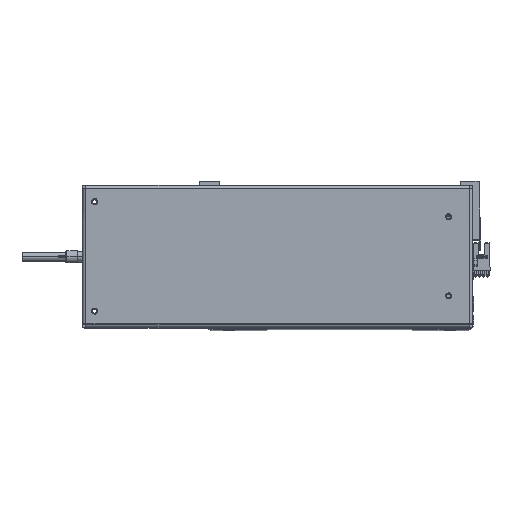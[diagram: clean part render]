
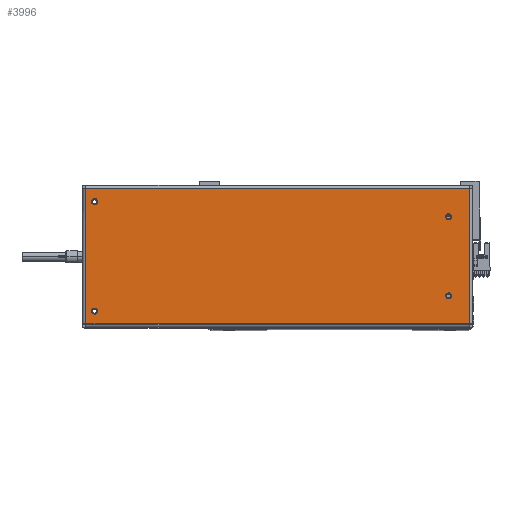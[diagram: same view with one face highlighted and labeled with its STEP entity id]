
A CAD part, top view. The second image highlights one B-rep face of the part: STEP entity #3996.
In plain terms, the highlighted planar face has unit normal (0, 0, 1).
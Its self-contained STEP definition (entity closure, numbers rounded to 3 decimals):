
#616 = CIRCLE ( 'NONE', #28214, 2.5 ) ;
#704 = EDGE_LOOP ( 'NONE', ( #2005, #8262 ) ) ;
#862 = DIRECTION ( 'NONE',  ( 0., 0., 1. ) ) ;
#1237 = DIRECTION ( 'NONE',  ( 1., 0., 0. ) ) ;
#2005 = ORIENTED_EDGE ( 'NONE', *, *, #13672, .F. ) ;
#2350 = VERTEX_POINT ( 'NONE', #8721 ) ;
#3062 = DIRECTION ( 'NONE',  ( 1., 0., 0. ) ) ;
#3361 = LINE ( 'NONE', #36124, #34867 ) ;
#3455 = DIRECTION ( 'NONE',  ( 0., 0., 1. ) ) ;
#3932 = DIRECTION ( 'NONE',  ( 0., 0., 1. ) ) ;
#3996 = ADVANCED_FACE ( 'NONE', ( #18841, #9554, #19281, #16048, #12826 ), #8010, .F. ) ;
#4498 = LINE ( 'NONE', #22472, #32773 ) ;
#4529 = CARTESIAN_POINT ( 'NONE',  ( 157.7, 58.5, 0. ) ) ;
#4784 = CARTESIAN_POINT ( 'NONE',  ( 153., 45., 0. ) ) ;
#5828 = CARTESIAN_POINT ( 'NONE',  ( 150.5, -45., 0. ) ) ;
#5901 = CARTESIAN_POINT ( 'NONE',  ( -143., -32.5, 0. ) ) ;
#6555 = DIRECTION ( 'NONE',  ( 1., 0., 0. ) ) ;
#6827 = EDGE_LOOP ( 'NONE', ( #19614, #27657 ) ) ;
#6978 = DIRECTION ( 'NONE',  ( 1., 0., 0. ) ) ;
#7643 = VERTEX_POINT ( 'NONE', #30121 ) ;
#8010 = PLANE ( 'NONE',  #38411 ) ;
#8262 = ORIENTED_EDGE ( 'NONE', *, *, #31383, .F. ) ;
#8721 = CARTESIAN_POINT ( 'NONE',  ( 148., -45., 0. ) ) ;
#8974 = DIRECTION ( 'NONE',  ( 0., 0., 1. ) ) ;
#9554 = FACE_BOUND ( 'NONE', #6827, .T. ) ;
#9863 = VERTEX_POINT ( 'NONE', #33495 ) ;
#10288 = VERTEX_POINT ( 'NONE', #4784 ) ;
#10576 = EDGE_CURVE ( 'NONE', #30751, #16350, #3361, .T. ) ;
#10604 = AXIS2_PLACEMENT_3D ( 'NONE', #12849, #33535, #6978 ) ;
#10617 = CARTESIAN_POINT ( 'NONE',  ( -140.5, -32.5, 0. ) ) ;
#11535 = ORIENTED_EDGE ( 'NONE', *, *, #10576, .T. ) ;
#12533 = CARTESIAN_POINT ( 'NONE',  ( -140.5, -32.5, 0. ) ) ;
#12826 = FACE_OUTER_BOUND ( 'NONE', #17191, .T. ) ;
#12849 = CARTESIAN_POINT ( 'NONE',  ( 150.5, 45., 0. ) ) ;
#13128 = ORIENTED_EDGE ( 'NONE', *, *, #19734, .T. ) ;
#13204 = VECTOR ( 'NONE', #15570, 1000. ) ;
#13263 = CARTESIAN_POINT ( 'NONE',  ( -140.5, 32.5, 0. ) ) ;
#13672 = EDGE_CURVE ( 'NONE', #25510, #20986, #616, .T. ) ;
#13995 = ORIENTED_EDGE ( 'NONE', *, *, #24311, .T. ) ;
#14254 = EDGE_CURVE ( 'NONE', #29523, #22775, #14515, .T. ) ;
#14515 = CIRCLE ( 'NONE', #35206, 2.5 ) ;
#14904 = AXIS2_PLACEMENT_3D ( 'NONE', #20888, #8974, #35798 ) ;
#15347 = CARTESIAN_POINT ( 'NONE',  ( 150.5, 45., 0. ) ) ;
#15570 = DIRECTION ( 'NONE',  ( -1., 0., 0. ) ) ;
#15941 = CARTESIAN_POINT ( 'NONE',  ( 157.6, 55.6, 0. ) ) ;
#16048 = FACE_BOUND ( 'NONE', #36794, .T. ) ;
#16350 = VERTEX_POINT ( 'NONE', #25172 ) ;
#16604 = CARTESIAN_POINT ( 'NONE',  ( -157.6, 55.6, 0. ) ) ;
#16612 = EDGE_CURVE ( 'NONE', #22775, #29523, #18638, .T. ) ;
#16742 = DIRECTION ( 'NONE',  ( 1., 0., 0. ) ) ;
#17055 = CIRCLE ( 'NONE', #36845, 2.5 ) ;
#17191 = EDGE_LOOP ( 'NONE', ( #24188, #11535, #13128, #13995 ) ) ;
#17403 = LINE ( 'NONE', #21125, #13204 ) ;
#18231 = AXIS2_PLACEMENT_3D ( 'NONE', #28350, #25396, #16742 ) ;
#18638 = CIRCLE ( 'NONE', #14904, 2.5 ) ;
#18841 = FACE_BOUND ( 'NONE', #704, .T. ) ;
#19281 = FACE_BOUND ( 'NONE', #30020, .T. ) ;
#19614 = ORIENTED_EDGE ( 'NONE', *, *, #16612, .F. ) ;
#19734 = EDGE_CURVE ( 'NONE', #16350, #22040, #20511, .T. ) ;
#20511 = LINE ( 'NONE', #22199, #35369 ) ;
#20888 = CARTESIAN_POINT ( 'NONE',  ( -140.5, 32.5, 0. ) ) ;
#20986 = VERTEX_POINT ( 'NONE', #5901 ) ;
#21044 = CIRCLE ( 'NONE', #31431, 2.5 ) ;
#21113 = DIRECTION ( 'NONE',  ( 0., 0., 1. ) ) ;
#21125 = CARTESIAN_POINT ( 'NONE',  ( 157.7, 55.6, 0. ) ) ;
#21971 = ORIENTED_EDGE ( 'NONE', *, *, #28556, .F. ) ;
#22026 = EDGE_CURVE ( 'NONE', #9863, #10288, #38251, .T. ) ;
#22040 = VERTEX_POINT ( 'NONE', #15941 ) ;
#22199 = CARTESIAN_POINT ( 'NONE',  ( 157.6, -55.6, 0. ) ) ;
#22459 = VERTEX_POINT ( 'NONE', #16604 ) ;
#22472 = CARTESIAN_POINT ( 'NONE',  ( -157.6, 55.6, 0. ) ) ;
#22586 = CARTESIAN_POINT ( 'NONE',  ( -157.6, -55.6, 0. ) ) ;
#22775 = VERTEX_POINT ( 'NONE', #29339 ) ;
#23327 = EDGE_CURVE ( 'NONE', #7643, #2350, #28037, .T. ) ;
#24027 = AXIS2_PLACEMENT_3D ( 'NONE', #5828, #21113, #33004 ) ;
#24188 = ORIENTED_EDGE ( 'NONE', *, *, #28952, .T. ) ;
#24311 = EDGE_CURVE ( 'NONE', #22040, #22459, #17403, .T. ) ;
#24459 = CIRCLE ( 'NONE', #18231, 2.5 ) ;
#25163 = DIRECTION ( 'NONE',  ( 1., 0., 0. ) ) ;
#25172 = CARTESIAN_POINT ( 'NONE',  ( 157.6, -55.6, 0. ) ) ;
#25252 = DIRECTION ( 'NONE',  ( 0., 0., -1. ) ) ;
#25396 = DIRECTION ( 'NONE',  ( 0., 0., 1. ) ) ;
#25510 = VERTEX_POINT ( 'NONE', #36310 ) ;
#25686 = DIRECTION ( 'NONE',  ( 0., -1., 0. ) ) ;
#26499 = ORIENTED_EDGE ( 'NONE', *, *, #37828, .F. ) ;
#27657 = ORIENTED_EDGE ( 'NONE', *, *, #14254, .F. ) ;
#27730 = DIRECTION ( 'NONE',  ( 0., 1., 0. ) ) ;
#28037 = CIRCLE ( 'NONE', #24027, 2.5 ) ;
#28214 = AXIS2_PLACEMENT_3D ( 'NONE', #12533, #3455, #3062 ) ;
#28337 = DIRECTION ( 'NONE',  ( -1., 0., 0. ) ) ;
#28342 = CARTESIAN_POINT ( 'NONE',  ( -143., 32.5, 0. ) ) ;
#28350 = CARTESIAN_POINT ( 'NONE',  ( 150.5, -45., 0. ) ) ;
#28556 = EDGE_CURVE ( 'NONE', #2350, #7643, #24459, .T. ) ;
#28917 = ORIENTED_EDGE ( 'NONE', *, *, #23327, .F. ) ;
#28952 = EDGE_CURVE ( 'NONE', #22459, #30751, #4498, .T. ) ;
#29339 = CARTESIAN_POINT ( 'NONE',  ( -138., 32.5, 0. ) ) ;
#29523 = VERTEX_POINT ( 'NONE', #28342 ) ;
#30020 = EDGE_LOOP ( 'NONE', ( #28917, #21971 ) ) ;
#30121 = CARTESIAN_POINT ( 'NONE',  ( 153., -45., 0. ) ) ;
#30256 = ORIENTED_EDGE ( 'NONE', *, *, #22026, .F. ) ;
#30751 = VERTEX_POINT ( 'NONE', #22586 ) ;
#31320 = DIRECTION ( 'NONE',  ( 0., 0., 1. ) ) ;
#31383 = EDGE_CURVE ( 'NONE', #20986, #25510, #21044, .T. ) ;
#31431 = AXIS2_PLACEMENT_3D ( 'NONE', #10617, #31320, #36903 ) ;
#32773 = VECTOR ( 'NONE', #25686, 1000. ) ;
#33004 = DIRECTION ( 'NONE',  ( 1., 0., 0. ) ) ;
#33495 = CARTESIAN_POINT ( 'NONE',  ( 148., 45., 0. ) ) ;
#33535 = DIRECTION ( 'NONE',  ( 0., 0., 1. ) ) ;
#34867 = VECTOR ( 'NONE', #6555, 1000. ) ;
#35206 = AXIS2_PLACEMENT_3D ( 'NONE', #13263, #3932, #1237 ) ;
#35369 = VECTOR ( 'NONE', #27730, 1000. ) ;
#35798 = DIRECTION ( 'NONE',  ( 1., 0., 0. ) ) ;
#36124 = CARTESIAN_POINT ( 'NONE',  ( -157.7, -55.6, 0. ) ) ;
#36310 = CARTESIAN_POINT ( 'NONE',  ( -138., -32.5, 0. ) ) ;
#36794 = EDGE_LOOP ( 'NONE', ( #26499, #30256 ) ) ;
#36845 = AXIS2_PLACEMENT_3D ( 'NONE', #15347, #862, #25163 ) ;
#36903 = DIRECTION ( 'NONE',  ( 1., 0., 0. ) ) ;
#37828 = EDGE_CURVE ( 'NONE', #10288, #9863, #17055, .T. ) ;
#38251 = CIRCLE ( 'NONE', #10604, 2.5 ) ;
#38411 = AXIS2_PLACEMENT_3D ( 'NONE', #4529, #25252, #28337 ) ;
